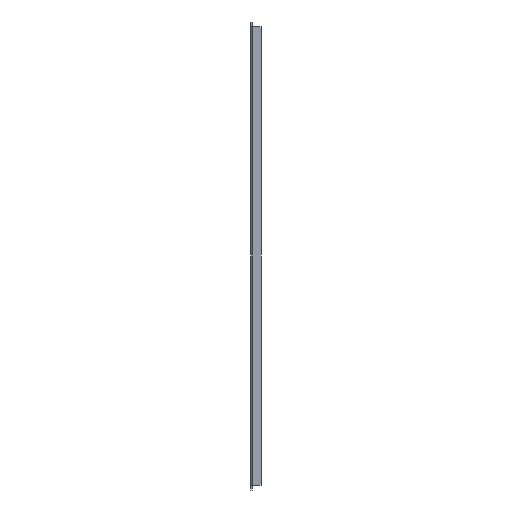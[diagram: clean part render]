
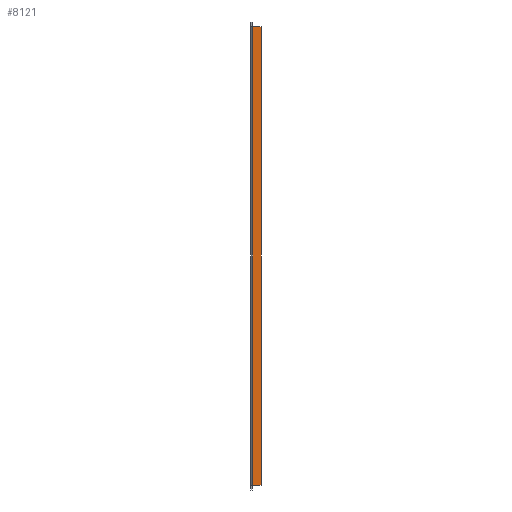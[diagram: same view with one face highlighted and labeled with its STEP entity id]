
A CAD part, left-side view. The second image highlights one B-rep face of the part: STEP entity #8121.
In plain terms, the highlighted planar face has unit normal (-1, 0, 0).
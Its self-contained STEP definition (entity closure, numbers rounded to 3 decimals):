
#4431=CARTESIAN_POINT(' ',(-184.5,-2.6,-342.5));
#4432=VERTEX_POINT(' ',#4431);
#4446=CARTESIAN_POINT(' ',(-184.5,-2.6,-342.5));
#4451=DIRECTION(' ',(0.,0.,1.));
#4456=VECTOR(' ',#4451,1.);
#4461=LINE('',#4446,#4456);
#4466=CARTESIAN_POINT(' ',(-184.5,-2.6,342.5));
#4467=VERTEX_POINT(' ',#4466);
#4471=EDGE_CURVE(' ',#4432,#4467,#4461,.T.);
#7946=CARTESIAN_POINT(' ',(-184.5,-15.,-342.5));
#7947=VERTEX_POINT(' ',#7946);
#7961=CARTESIAN_POINT(' ',(-184.5,-15.,-342.5));
#7966=DIRECTION(' ',(0.,1.,0.));
#7971=VECTOR(' ',#7966,1.);
#7976=LINE('',#7961,#7971);
#7981=EDGE_CURVE(' ',#7947,#4432,#7976,.T.);
#8011=DIRECTION(' ',(-1.,0.,0.));
#8016=CARTESIAN_POINT(' ',(-184.5,-2.6,342.5));
#8021=DIRECTION(' ',(-0.,0.,-1.));
#8026=AXIS2_PLACEMENT_3D(' ',#8016,#8011,#8021);
#8031=PLANE('NONE',#8026);
#8036=ORIENTED_EDGE(' ',*,*,#4471,.F.);
#8041=ORIENTED_EDGE(' ',*,*,#7981,.F.);
#8046=CARTESIAN_POINT(' ',(-184.5,-15.,342.5));
#8051=DIRECTION(' ',(0.,0.,-1.));
#8056=VECTOR(' ',#8051,1.);
#8061=LINE('',#8046,#8056);
#8066=CARTESIAN_POINT(' ',(-184.5,-15.,342.5));
#8067=VERTEX_POINT(' ',#8066);
#8071=EDGE_CURVE(' ',#8067,#7947,#8061,.T.);
#8076=ORIENTED_EDGE(' ',*,*,#8071,.F.);
#8081=CARTESIAN_POINT(' ',(-184.5,-2.6,342.5));
#8086=DIRECTION(' ',(0.,-1.,0.));
#8091=VECTOR(' ',#8086,1.);
#8096=LINE('',#8081,#8091);
#8101=EDGE_CURVE(' ',#4467,#8067,#8096,.T.);
#8106=ORIENTED_EDGE(' ',*,*,#8101,.F.);
#8111=EDGE_LOOP(' ',(#8036,#8041,#8076,#8106));
#8116=FACE_OUTER_BOUND(' ',#8111,.T.);
#8121=ADVANCED_FACE('NONE',(#8116),#8031,.T.);
